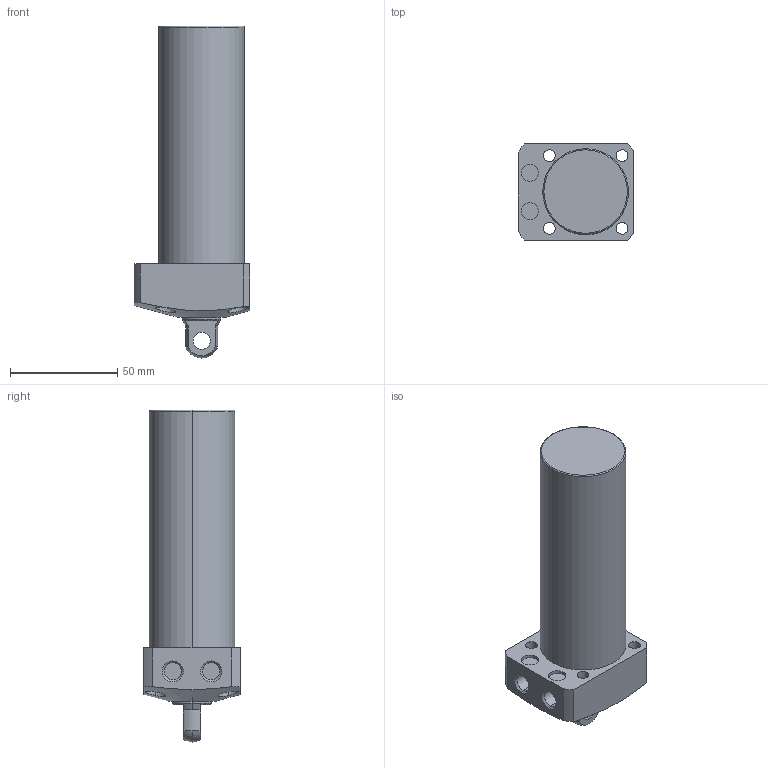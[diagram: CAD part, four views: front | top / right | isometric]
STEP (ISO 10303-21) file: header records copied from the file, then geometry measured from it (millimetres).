
FILE_DESCRIPTION (( 'STEP AP203' ), '1' );
FILE_NAME ('CLL040-CP-085.STEP', '2017-05-17T08:01:11', ( '' ), ( '' ), 'SwSTEP 2.0', 'SolidWorks 2015', '' );
FILE_SCHEMA (( 'CONFIG_CONTROL_DESIGN' ));
Length unit declared in the file: millimetre
Products named in the file (1): CLL040-CP-085
Bounding box: 54 x 45 x 155 mm (x, y, z)
Volume: 190742 mm3; surface area: 25962 mm2
Topology: 1 solids, 1 shells, 68 faces, 159 edges, 103 vertices
Faces by surface type: cylinder 35, plane 21, cone 8, sphere 2, torus 2
Entity records: 2372 total; most frequent: CARTESIAN_POINT 675, DIRECTION 357, ORIENTED_EDGE 318, EDGE_CURVE 159, AXIS2_PLACEMENT_3D 149, VERTEX_POINT 103, EDGE_LOOP 88, CIRCLE 80
